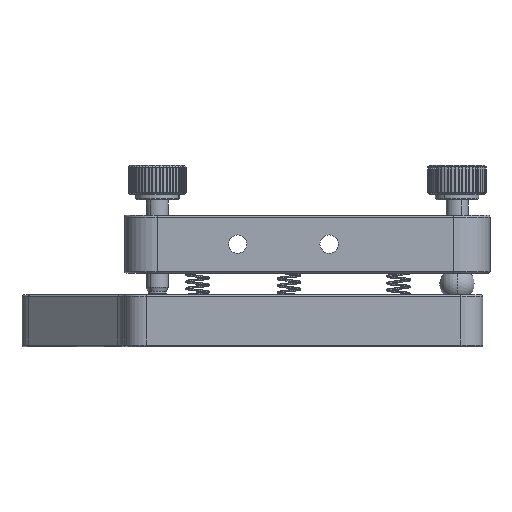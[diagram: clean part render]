
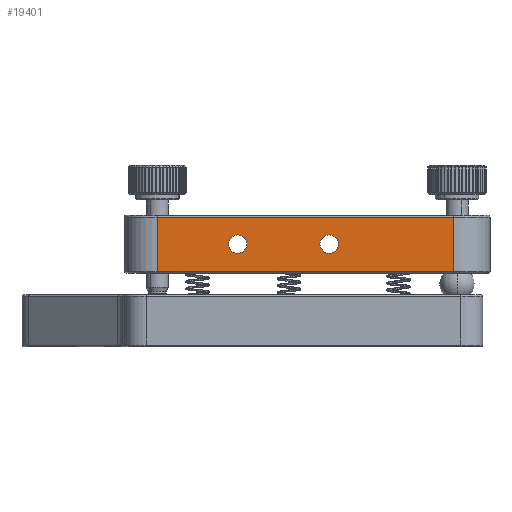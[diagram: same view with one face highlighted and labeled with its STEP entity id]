
A CAD part, left-side view. The second image highlights one B-rep face of the part: STEP entity #19401.
In plain terms, the highlighted planar face has unit normal (-1, 0, 0).
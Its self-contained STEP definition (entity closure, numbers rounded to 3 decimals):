
#241 = EDGE_CURVE ( 'NONE', #14435, #26848, #16085, .T. ) ;
#376 = LINE ( 'NONE', #25190, #36255 ) ;
#587 = CARTESIAN_POINT ( 'NONE',  ( -18.282, 25.187, 102.5 ) ) ;
#782 = LINE ( 'NONE', #14925, #41268 ) ;
#2440 = ORIENTED_EDGE ( 'NONE', *, *, #40323, .T. ) ;
#2691 = DIRECTION ( 'NONE',  ( -1., 0., 0. ) ) ;
#3272 = LINE ( 'NONE', #28095, #6519 ) ;
#4112 = CARTESIAN_POINT ( 'NONE',  ( -18.282, 50.187, 100. ) ) ;
#4333 = DIRECTION ( 'NONE',  ( 1., 0., 0. ) ) ;
#4584 = ORIENTED_EDGE ( 'NONE', *, *, #241, .F. ) ;
#4968 = CARTESIAN_POINT ( 'NONE',  ( -18.282, 25.187, 97.5 ) ) ;
#6519 = VECTOR ( 'NONE', #42247, 1000. ) ;
#7678 = VERTEX_POINT ( 'NONE', #32019 ) ;
#7819 = FACE_OUTER_BOUND ( 'NONE', #28937, .T. ) ;
#8356 = EDGE_CURVE ( 'NONE', #26848, #14435, #28251, .T. ) ;
#10092 = ORIENTED_EDGE ( 'NONE', *, *, #32029, .F. ) ;
#11879 = CARTESIAN_POINT ( 'NONE',  ( -18.282, -8.813, 107.4 ) ) ;
#12183 = DIRECTION ( 'NONE',  ( -1., 0., 0. ) ) ;
#12817 = CIRCLE ( 'NONE', #38757, 2.5 ) ;
#12831 = DIRECTION ( 'NONE',  ( -1., 0., 0. ) ) ;
#12891 = EDGE_LOOP ( 'NONE', ( #34887, #10092 ) ) ;
#12970 = EDGE_CURVE ( 'NONE', #26424, #31991, #376, .T. ) ;
#13873 = EDGE_CURVE ( 'NONE', #26424, #7678, #3272, .T. ) ;
#14435 = VERTEX_POINT ( 'NONE', #42663 ) ;
#14925 = CARTESIAN_POINT ( 'NONE',  ( -18.282, -8.813, 92.1 ) ) ;
#15017 = VECTOR ( 'NONE', #44219, 1000. ) ;
#15202 = ORIENTED_EDGE ( 'NONE', *, *, #24473, .T. ) ;
#15899 = LINE ( 'NONE', #30068, #15017 ) ;
#16085 = CIRCLE ( 'NONE', #42016, 2.5 ) ;
#16817 = DIRECTION ( 'NONE',  ( 0., 0., 1. ) ) ;
#17942 = AXIS2_PLACEMENT_3D ( 'NONE', #36123, #4333, #18485 ) ;
#17973 = AXIS2_PLACEMENT_3D ( 'NONE', #44606, #12831, #26984 ) ;
#18265 = DIRECTION ( 'NONE',  ( -1., 0., 0. ) ) ;
#18485 = DIRECTION ( 'NONE',  ( 0., 0., -1. ) ) ;
#19401 = ADVANCED_FACE ( 'NONE', ( #25449, #39618, #7819 ), #21975, .F. ) ;
#20149 = EDGE_CURVE ( 'NONE', #30676, #32404, #37973, .T. ) ;
#20528 = VERTEX_POINT ( 'NONE', #11879 ) ;
#21975 = PLANE ( 'NONE',  #17942 ) ;
#23790 = CARTESIAN_POINT ( 'NONE',  ( -18.282, -8.813, 92.6 ) ) ;
#24473 = EDGE_CURVE ( 'NONE', #31991, #20528, #782, .T. ) ;
#25190 = CARTESIAN_POINT ( 'NONE',  ( -18.282, -18.813, 92.6 ) ) ;
#25449 = FACE_BOUND ( 'NONE', #29797, .T. ) ;
#26332 = DIRECTION ( 'NONE',  ( 0., 0., 1. ) ) ;
#26424 = VERTEX_POINT ( 'NONE', #37397 ) ;
#26848 = VERTEX_POINT ( 'NONE', #27576 ) ;
#26984 = DIRECTION ( 'NONE',  ( 0., 0., 1. ) ) ;
#27576 = CARTESIAN_POINT ( 'NONE',  ( -18.282, 50.187, 97.5 ) ) ;
#28095 = CARTESIAN_POINT ( 'NONE',  ( -18.282, 72.187, 92.1 ) ) ;
#28251 = CIRCLE ( 'NONE', #34169, 2.5 ) ;
#28937 = EDGE_LOOP ( 'NONE', ( #15202, #2440, #41193, #34745 ) ) ;
#29075 = DIRECTION ( 'NONE',  ( 0., 0., 1. ) ) ;
#29797 = EDGE_LOOP ( 'NONE', ( #4584, #39829 ) ) ;
#30068 = CARTESIAN_POINT ( 'NONE',  ( -18.282, 72.187, 107.4 ) ) ;
#30676 = VERTEX_POINT ( 'NONE', #587 ) ;
#31991 = VERTEX_POINT ( 'NONE', #23790 ) ;
#32019 = CARTESIAN_POINT ( 'NONE',  ( -18.282, 72.187, 107.4 ) ) ;
#32029 = EDGE_CURVE ( 'NONE', #32404, #30676, #12817, .T. ) ;
#32404 = VERTEX_POINT ( 'NONE', #4968 ) ;
#32425 = DIRECTION ( 'NONE',  ( 0., 0., 1. ) ) ;
#34169 = AXIS2_PLACEMENT_3D ( 'NONE', #4112, #18265, #32425 ) ;
#34450 = CARTESIAN_POINT ( 'NONE',  ( -18.282, 25.187, 100. ) ) ;
#34745 = ORIENTED_EDGE ( 'NONE', *, *, #12970, .T. ) ;
#34887 = ORIENTED_EDGE ( 'NONE', *, *, #20149, .F. ) ;
#36123 = CARTESIAN_POINT ( 'NONE',  ( -18.282, -18.813, 92.1 ) ) ;
#36255 = VECTOR ( 'NONE', #39362, 1000. ) ;
#37397 = CARTESIAN_POINT ( 'NONE',  ( -18.282, 72.187, 92.6 ) ) ;
#37973 = CIRCLE ( 'NONE', #17973, 2.5 ) ;
#38757 = AXIS2_PLACEMENT_3D ( 'NONE', #34450, #2691, #16817 ) ;
#39362 = DIRECTION ( 'NONE',  ( 0., -1., 0. ) ) ;
#39618 = FACE_BOUND ( 'NONE', #12891, .T. ) ;
#39829 = ORIENTED_EDGE ( 'NONE', *, *, #8356, .F. ) ;
#40323 = EDGE_CURVE ( 'NONE', #20528, #7678, #15899, .T. ) ;
#41193 = ORIENTED_EDGE ( 'NONE', *, *, #13873, .F. ) ;
#41268 = VECTOR ( 'NONE', #29075, 1000. ) ;
#42016 = AXIS2_PLACEMENT_3D ( 'NONE', #43962, #12183, #26332 ) ;
#42247 = DIRECTION ( 'NONE',  ( 0., 0., 1. ) ) ;
#42663 = CARTESIAN_POINT ( 'NONE',  ( -18.282, 50.187, 102.5 ) ) ;
#43962 = CARTESIAN_POINT ( 'NONE',  ( -18.282, 50.187, 100. ) ) ;
#44219 = DIRECTION ( 'NONE',  ( 0., 1., 0. ) ) ;
#44606 = CARTESIAN_POINT ( 'NONE',  ( -18.282, 25.187, 100. ) ) ;
